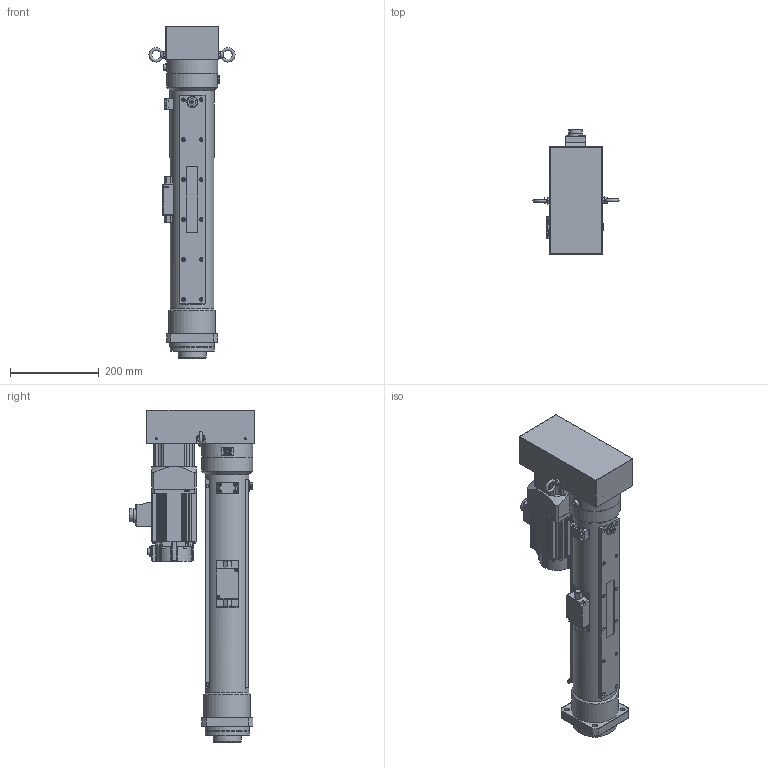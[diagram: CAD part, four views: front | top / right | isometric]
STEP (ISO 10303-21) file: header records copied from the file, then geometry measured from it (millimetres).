
FILE_DESCRIPTION(/* description */ (''),/* implementation_level */ '2;1');
FILE_NAME(/* name */ 'Z:\07.Product\01.Design\3D\1.P-All\OAICS-P\0000.Assembly\OACIS-P010,P015-400-200-A6V200.stp',/* time_stamp */ '2023-06-30T09:22:13+09:00',/* author */ ('magic'),/* organization */ (''),/* preprocessor_version */ 'ST-DEVELOPER v17',/* originating_system */ 'Autodesk Inventor 2019',/* authorisation */ '');
FILE_SCHEMA (('AUTOMOTIVE_DESIGN { 1 0 10303 214 3 1 1 }'));
Products named in the file (1): OACIS-P010-400-200-A6
Bounding box: 193.9 x 283.44 x 748 mm (x, y, z)
Volume: 7075432.6 mm3; surface area: 1008209.1 mm2
Topology: 2 solids, 2 shells, 2161 faces, 5765 edges, 3810 vertices
Faces by surface type: plane 978, cylinder 727, cone 233, bspline 108, sphere 60, torus 55
Full cylindrical faces by diameter (mm): 1 x6, 3.242 x40, 4.134 x4, 4.5 x36, 4.917 x19, 5 x2, 5.8 x2, 6.5 x2, 6.6 x10, 6.647 x8, 6.75 x4, 6.8 x1, 7 x12, 7.2 x2, 7.24 x2, 7.8 x2, 8 x48, 8.376 x8, 8.4 x1, 8.7 x1, 9 x12, 9.188 x1, 11 x4, 14 x9, 14.8 x1, 16.376 x1, 18 x1, 22 x1, 25 x1, 25.4 x1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
Entity records: 80465 total; most frequent: CARTESIAN_POINT 23592, DIRECTION 11616, ORIENTED_EDGE 11310, EDGE_CURVE 5655, AXIS2_PLACEMENT_3D 4376, VERTEX_POINT 3810, LINE 2864, VECTOR 2864
